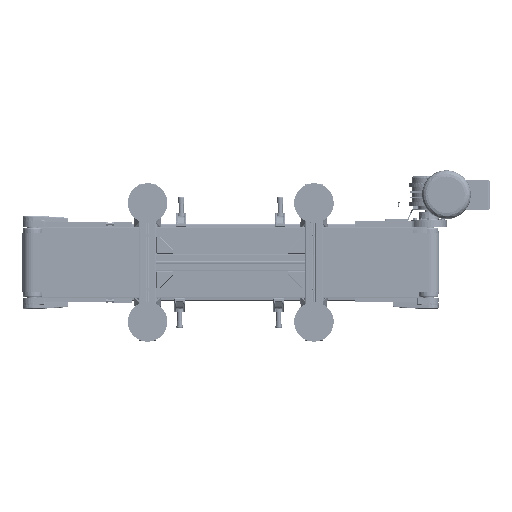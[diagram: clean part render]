
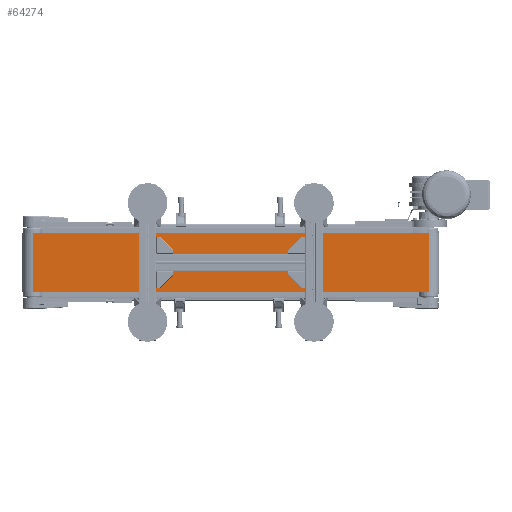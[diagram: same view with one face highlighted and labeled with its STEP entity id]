
A CAD part, front view. The second image highlights one B-rep face of the part: STEP entity #64274.
In plain terms, the highlighted planar face has unit normal (0, -1, 0).
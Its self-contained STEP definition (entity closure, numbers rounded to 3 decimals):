
#659 = ORIENTED_EDGE ( 'NONE', *, *, #235533, .F. ) ;
#3761 = VECTOR ( 'NONE', #147265, 1000. ) ;
#5553 = EDGE_CURVE ( 'NONE', #153788, #246700, #142610, .T. ) ;
#6117 = EDGE_CURVE ( 'NONE', #246700, #58934, #107086, .T. ) ;
#6155 = PLANE ( 'NONE',  #36341 ) ;
#6217 = CARTESIAN_POINT ( 'NONE',  ( -500., -27., 75. ) ) ;
#14144 = ORIENTED_EDGE ( 'NONE', *, *, #6117, .T. ) ;
#36341 = AXIS2_PLACEMENT_3D ( 'NONE', #181811, #198137, #221875 ) ;
#48442 = CARTESIAN_POINT ( 'NONE',  ( -500., -27., 75. ) ) ;
#55262 = CARTESIAN_POINT ( 'NONE',  ( -500., -27., 75. ) ) ;
#57756 = DIRECTION ( 'NONE',  ( 1., 0., 0. ) ) ;
#58934 = VERTEX_POINT ( 'NONE', #191626 ) ;
#64274 = ADVANCED_FACE ( 'NONE', ( #105201 ), #6155, .F. ) ;
#67837 = LINE ( 'NONE', #84204, #95948 ) ;
#83819 = VERTEX_POINT ( 'NONE', #143854 ) ;
#84204 = CARTESIAN_POINT ( 'NONE',  ( 500., -27., 75. ) ) ;
#94149 = LINE ( 'NONE', #55262, #168544 ) ;
#95948 = VECTOR ( 'NONE', #125574, 1000. ) ;
#99707 = EDGE_LOOP ( 'NONE', ( #14144, #207997, #659, #193847 ) ) ;
#105201 = FACE_OUTER_BOUND ( 'NONE', #99707, .T. ) ;
#107086 = LINE ( 'NONE', #148495, #3761 ) ;
#123935 = CARTESIAN_POINT ( 'NONE',  ( -500., -27., -75. ) ) ;
#125574 = DIRECTION ( 'NONE',  ( 0., 0., -1. ) ) ;
#142610 = LINE ( 'NONE', #48442, #215845 ) ;
#143854 = CARTESIAN_POINT ( 'NONE',  ( 500., -27., 75. ) ) ;
#147265 = DIRECTION ( 'NONE',  ( 1., 0., 0. ) ) ;
#148495 = CARTESIAN_POINT ( 'NONE',  ( -500., -27., -75. ) ) ;
#153788 = VERTEX_POINT ( 'NONE', #6217 ) ;
#160871 = EDGE_CURVE ( 'NONE', #83819, #58934, #67837, .T. ) ;
#168544 = VECTOR ( 'NONE', #57756, 1000. ) ;
#181811 = CARTESIAN_POINT ( 'NONE',  ( -500., -27., 75. ) ) ;
#191626 = CARTESIAN_POINT ( 'NONE',  ( 500., -27., -75. ) ) ;
#193847 = ORIENTED_EDGE ( 'NONE', *, *, #5553, .T. ) ;
#198137 = DIRECTION ( 'NONE',  ( 0., 1., 0. ) ) ;
#200289 = DIRECTION ( 'NONE',  ( 0., 0., -1. ) ) ;
#207997 = ORIENTED_EDGE ( 'NONE', *, *, #160871, .F. ) ;
#215845 = VECTOR ( 'NONE', #200289, 1000. ) ;
#221875 = DIRECTION ( 'NONE',  ( 0., 0., 1. ) ) ;
#235533 = EDGE_CURVE ( 'NONE', #153788, #83819, #94149, .T. ) ;
#246700 = VERTEX_POINT ( 'NONE', #123935 ) ;
